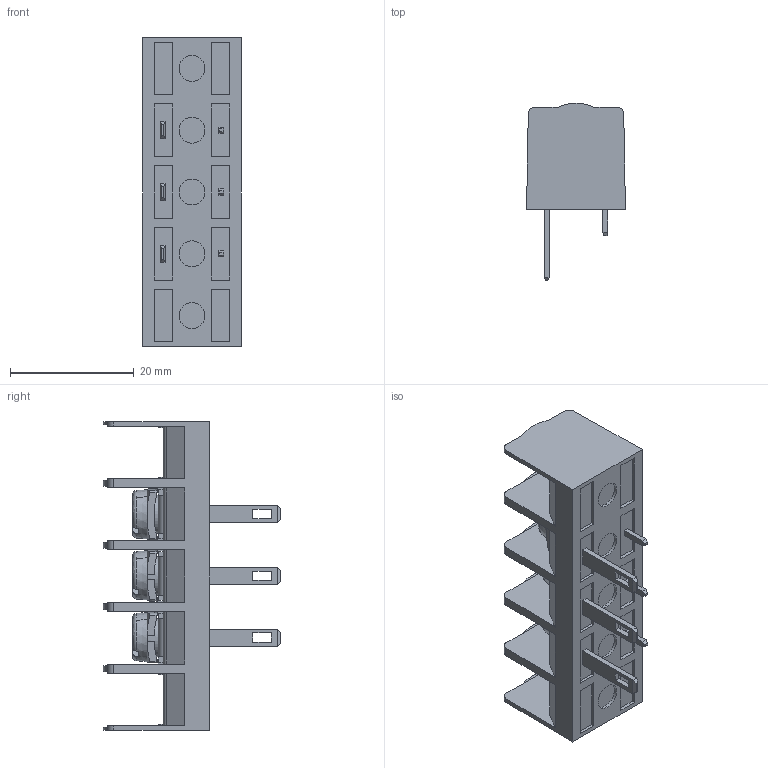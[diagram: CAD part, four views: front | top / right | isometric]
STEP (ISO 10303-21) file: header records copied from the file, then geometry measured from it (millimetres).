
FILE_DESCRIPTION (( 'STEP AP203' ), '1' );
FILE_NAME ('983-SML-2.8-03.STEP', '2019-01-17T04:42:47', ( '' ), ( '' ), 'SwSTEP 2.0', 'SolidWorks 2016', '' );
FILE_SCHEMA (( 'CONFIG_CONTROL_DESIGN' ));
Length unit declared in the file: millimetre
Products named in the file (1): 983-SML-2.8-03
Bounding box: 16 x 28.7 x 50 mm (x, y, z)
Volume: 7321.3 mm3; surface area: 5625.9 mm2
Topology: 1 solids, 4 shells, 495 faces, 1311 edges, 854 vertices
Faces by surface type: plane 396, cylinder 84, bspline 9, cone 6
Entity records: 15590 total; most frequent: CARTESIAN_POINT 3162, ORIENTED_EDGE 2622, DIRECTION 2436, EDGE_CURVE 1311, VECTOR 1064, LINE 1064, VERTEX_POINT 854, AXIS2_PLACEMENT_3D 686
